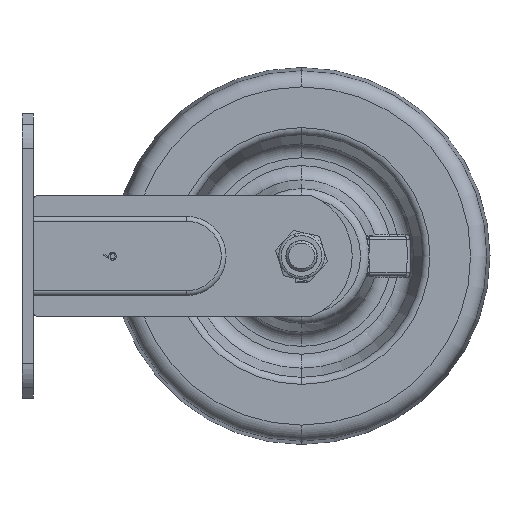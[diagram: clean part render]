
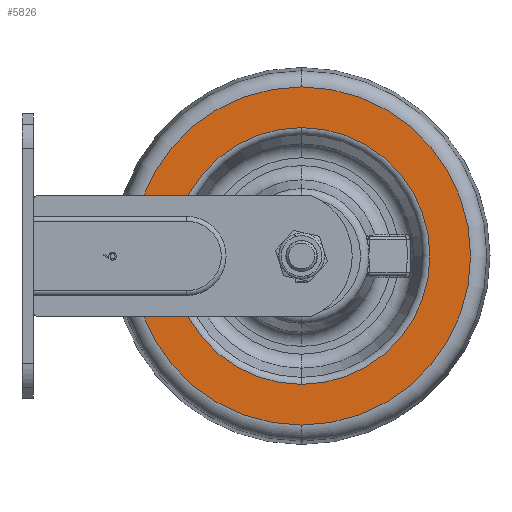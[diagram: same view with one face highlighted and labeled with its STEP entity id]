
A CAD part, left-side view. The second image highlights one B-rep face of the part: STEP entity #5826.
In plain terms, the highlighted planar face has unit normal (-1, 0, 0).
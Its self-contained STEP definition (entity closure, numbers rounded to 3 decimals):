
#45 = CARTESIAN_POINT ( 'NONE',  ( -25.4, -113., 51.907 ) ) ;
#451 = VERTEX_POINT ( 'NONE', #3897 ) ;
#944 = EDGE_LOOP ( 'NONE', ( #2877, #1289 ) ) ;
#1042 = AXIS2_PLACEMENT_3D ( 'NONE', #3298, #5760, #8390 ) ;
#1200 = DIRECTION ( 'NONE',  ( 0., 0., -1. ) ) ;
#1289 = ORIENTED_EDGE ( 'NONE', *, *, #3121, .F. ) ;
#1957 = ORIENTED_EDGE ( 'NONE', *, *, #5257, .T. ) ;
#2087 = CIRCLE ( 'NONE', #3324, 51.907 ) ;
#2262 = CARTESIAN_POINT ( 'NONE',  ( -25.4, -113., 0. ) ) ;
#2362 = DIRECTION ( 'NONE',  ( 1., 0., 0. ) ) ;
#2370 = CIRCLE ( 'NONE', #4832, 68.363 ) ;
#2481 = EDGE_CURVE ( 'NONE', #5864, #8506, #2087, .T. ) ;
#2639 = CIRCLE ( 'NONE', #3472, 68.363 ) ;
#2682 = CARTESIAN_POINT ( 'NONE',  ( -25.4, -113., -51.907 ) ) ;
#2877 = ORIENTED_EDGE ( 'NONE', *, *, #7696, .F. ) ;
#2965 = VERTEX_POINT ( 'NONE', #6834 ) ;
#3121 = EDGE_CURVE ( 'NONE', #2965, #451, #2639, .T. ) ;
#3298 = CARTESIAN_POINT ( 'NONE',  ( -25.4, -113., 0. ) ) ;
#3324 = AXIS2_PLACEMENT_3D ( 'NONE', #2262, #8137, #7358 ) ;
#3472 = AXIS2_PLACEMENT_3D ( 'NONE', #8333, #5057, #7691 ) ;
#3897 = CARTESIAN_POINT ( 'NONE',  ( -25.4, -113., -68.363 ) ) ;
#3975 = CIRCLE ( 'NONE', #7824, 51.907 ) ;
#4485 = FACE_BOUND ( 'NONE', #6507, .T. ) ;
#4832 = AXIS2_PLACEMENT_3D ( 'NONE', #7042, #5110, #1200 ) ;
#4968 = DIRECTION ( 'NONE',  ( 0., 0., -1. ) ) ;
#5057 = DIRECTION ( 'NONE',  ( 1., 0., 0. ) ) ;
#5110 = DIRECTION ( 'NONE',  ( 1., 0., 0. ) ) ;
#5257 = EDGE_CURVE ( 'NONE', #8506, #5864, #3975, .T. ) ;
#5760 = DIRECTION ( 'NONE',  ( -1., 0., 0. ) ) ;
#5807 = PLANE ( 'NONE',  #1042 ) ;
#5826 = ADVANCED_FACE ( 'NONE', ( #4485, #7100 ), #5807, .T. ) ;
#5864 = VERTEX_POINT ( 'NONE', #45 ) ;
#6507 = EDGE_LOOP ( 'NONE', ( #1957, #7949 ) ) ;
#6834 = CARTESIAN_POINT ( 'NONE',  ( -25.4, -113., 68.363 ) ) ;
#7042 = CARTESIAN_POINT ( 'NONE',  ( -25.4, -113., 0. ) ) ;
#7100 = FACE_OUTER_BOUND ( 'NONE', #944, .T. ) ;
#7358 = DIRECTION ( 'NONE',  ( 0., 0., -1. ) ) ;
#7691 = DIRECTION ( 'NONE',  ( 0., 0., -1. ) ) ;
#7696 = EDGE_CURVE ( 'NONE', #451, #2965, #2370, .T. ) ;
#7824 = AXIS2_PLACEMENT_3D ( 'NONE', #8197, #2362, #4968 ) ;
#7949 = ORIENTED_EDGE ( 'NONE', *, *, #2481, .T. ) ;
#8137 = DIRECTION ( 'NONE',  ( 1., 0., 0. ) ) ;
#8197 = CARTESIAN_POINT ( 'NONE',  ( -25.4, -113., 0. ) ) ;
#8333 = CARTESIAN_POINT ( 'NONE',  ( -25.4, -113., 0. ) ) ;
#8390 = DIRECTION ( 'NONE',  ( 0., 0., 1. ) ) ;
#8506 = VERTEX_POINT ( 'NONE', #2682 ) ;
